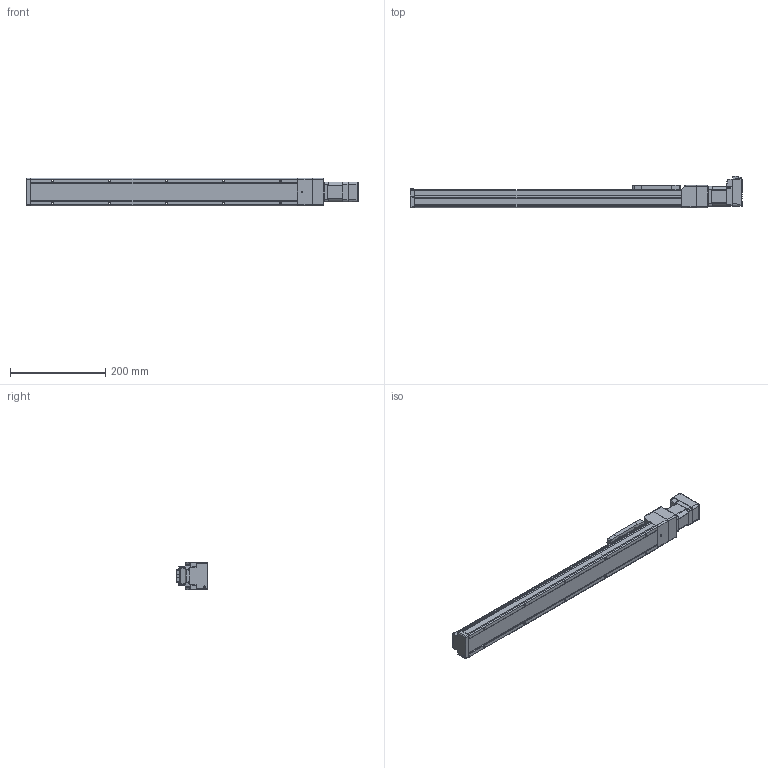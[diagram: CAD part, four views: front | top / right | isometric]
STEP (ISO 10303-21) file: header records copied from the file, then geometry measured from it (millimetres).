
FILE_DESCRIPTION (( 'STEP AP214' ), '1' );
FILE_NAME ('LEFS3(+)-25NM1Œû-450-17L.STEP', '2023-05-31T02:40:27', ( '' ), ( '' ), 'SwSTEP 2.0', 'SolidWorks 2019', '' );
FILE_SCHEMA (( 'AUTOMOTIVE_DESIGN' ));
Length unit declared in the file: millimetre
Products named in the file (5): LEFS3(+)-25NM1_MOTOR Flange; CM3(+)-17L50A; LEFS3(+)-25NM1口-450-17L; LEFS3(+)-25NM1_TABLE; LEFS3(+)-25NM1仩_BODY_450
Assembly tree (4 placements, depth 2):
  LEFS3(+)-25NM1口-450-17L
    LEFS3(+)-25NM1仩_BODY_450
    LEFS3(+)-25NM1_TABLE
    LEFS3(+)-25NM1_MOTOR Flange
    CM3(+)-17L50A
Bounding box: 697.3 x 66.75 x 58 mm (x, y, z)
Volume: 1380891.4 mm3; surface area: 178794.2 mm2
Topology: 5 solids, 5 shells, 999 faces, 2578 edges, 1624 vertices
Faces by surface type: plane 513, cylinder 314, cone 83, torus 39, bspline 29, sphere 21
Entity records: 40528 total; most frequent: CARTESIAN_POINT 7392, ORIENTED_EDGE 5094, DIRECTION 4910, EDGE_CURVE 2547, AXIS2_PLACEMENT_3D 1654, VERTEX_POINT 1624, LINE 1602, VECTOR 1602
